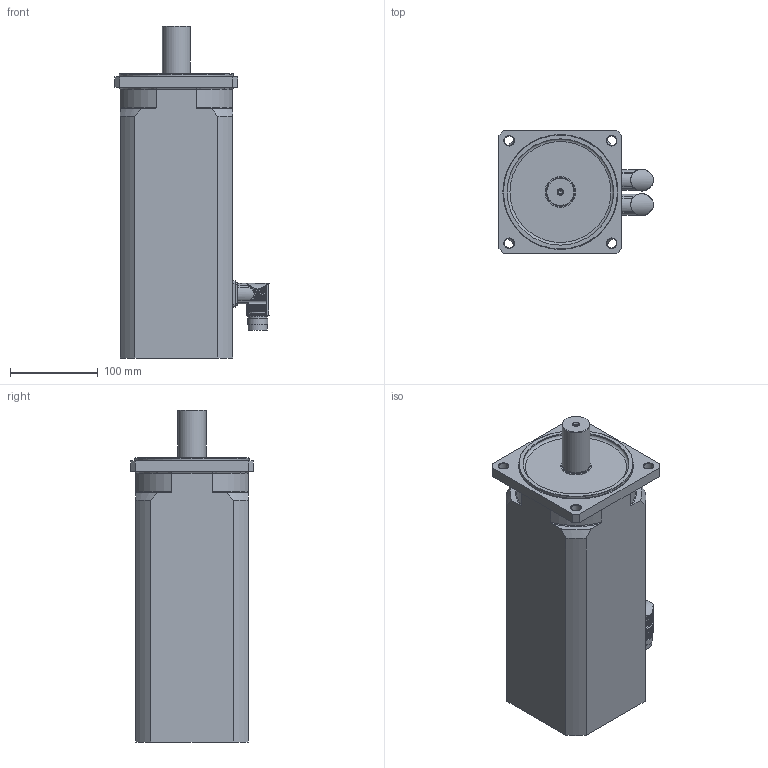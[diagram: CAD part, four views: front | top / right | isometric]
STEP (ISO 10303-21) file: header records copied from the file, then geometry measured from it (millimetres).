
FILE_DESCRIPTION(/* description */ (''),/* implementation_level */ '2;1');
FILE_NAME(/* name */ 'KSY 5616 D-Rx',/* time_stamp */ '2007-07-13T09:50:00+01:00',/* author */ (''),/* organization */ ('ESR Pollmeier GmbH'),/* preprocessor_version */ 'ST-DEVELOPER v8',/* originating_system */ 'UNIGRAPHICS SOLUTIONS - UNIGRAPHICS 18.0',/* authorisation */ '');
FILE_SCHEMA (('AUTOMOTIVE_DESIGN { 1 2 10303 214 0 1 1 1 }'));
Length unit declared in the file: millimetre
Products named in the file (3): Winkelflanschdose_0; Rotor_SY5_0; MR7458-Ux-Nxxx-G##-A0D-M0_0
Assembly tree (3 placements, depth 2):
  MR7458-Ux-Nxxx-G##-A0D-M0_0
    Rotor_SY5_0
    Winkelflanschdose_0  x2
Bounding box: 175.49 x 140 x 378 mm (x, y, z)
Volume: 5208281.4 mm3; surface area: 221657.5 mm2
Topology: 4 solids, 4 shells, 410 faces, 1138 edges, 753 vertices
Faces by surface type: cylinder 315, plane 69, cone 13, torus 13
Full cylindrical faces by diameter (mm): 4.351 x1, 5.5 x1, 11 x4, 16 x2, 21 x2, 21.5 x2, 23 x4, 31.52 x1, 32 x1, 35 x1, 121 x1, 130 x1
Entity records: 8139 total; most frequent: CARTESIAN_POINT 2068, ORIENTED_EDGE 1262, DIRECTION 1198, EDGE_CURVE 631, AXIS2_PLACEMENT_3D 481, VERTEX_POINT 433, EDGE_LOOP 295, ADVANCED_FACE 246
